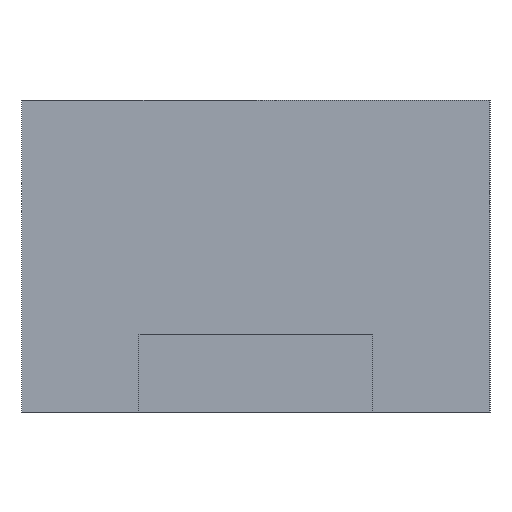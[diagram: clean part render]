
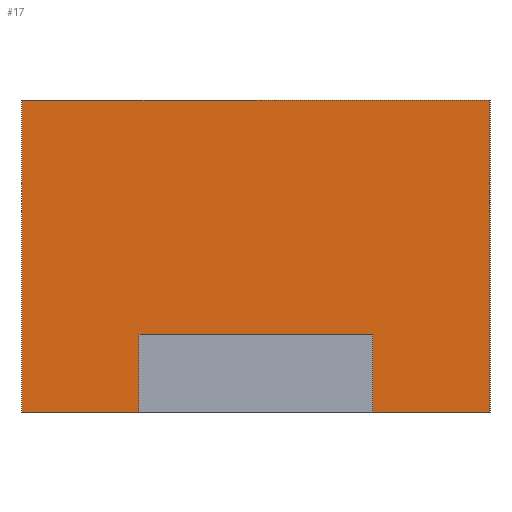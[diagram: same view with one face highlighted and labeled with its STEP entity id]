
A CAD part, left-side view. The second image highlights one B-rep face of the part: STEP entity #17.
In plain terms, the highlighted planar face has unit normal (-1, 0, 0).
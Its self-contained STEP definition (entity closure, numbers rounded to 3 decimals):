
#17 = ADVANCED_FACE('',(#18),#32,.F.);
#18 = FACE_BOUND('',#19,.F.);
#19 = EDGE_LOOP('',(#20,#55,#83,#111,#139,#167,#195,#218));
#20 = ORIENTED_EDGE('',*,*,#21,.F.);
#21 = EDGE_CURVE('',#22,#24,#26,.T.);
#22 = VERTEX_POINT('',#23);
#23 = CARTESIAN_POINT('',(-1.25,-0.75,1.));
#24 = VERTEX_POINT('',#25);
#25 = CARTESIAN_POINT('',(-1.25,0.75,1.));
#26 = SURFACE_CURVE('',#27,(#31,#43),.PCURVE_S1.);
#27 = LINE('',#28,#29);
#28 = CARTESIAN_POINT('',(-1.25,-0.75,1.));
#29 = VECTOR('',#30,1.);
#30 = DIRECTION('',(0.,1.,0.));
#31 = PCURVE('',#32,#37);
#32 = PLANE('',#33);
#33 = AXIS2_PLACEMENT_3D('',#34,#35,#36);
#34 = CARTESIAN_POINT('',(-1.25,-0.75,0.));
#35 = DIRECTION('',(1.,0.,0.));
#36 = DIRECTION('',(0.,0.,1.));
#37 = DEFINITIONAL_REPRESENTATION('',(#38),#42);
#38 = LINE('',#39,#40);
#39 = CARTESIAN_POINT('',(1.,0.));
#40 = VECTOR('',#41,1.);
#41 = DIRECTION('',(0.,-1.));
#42 = ( GEOMETRIC_REPRESENTATION_CONTEXT(2) 
PARAMETRIC_REPRESENTATION_CONTEXT() REPRESENTATION_CONTEXT('2D SPACE',''
  ) );
#43 = PCURVE('',#44,#49);
#44 = PLANE('',#45);
#45 = AXIS2_PLACEMENT_3D('',#46,#47,#48);
#46 = CARTESIAN_POINT('',(-1.25,-0.75,1.));
#47 = DIRECTION('',(0.,0.,1.));
#48 = DIRECTION('',(1.,0.,0.));
#49 = DEFINITIONAL_REPRESENTATION('',(#50),#54);
#50 = LINE('',#51,#52);
#51 = CARTESIAN_POINT('',(0.,0.));
#52 = VECTOR('',#53,1.);
#53 = DIRECTION('',(0.,1.));
#54 = ( GEOMETRIC_REPRESENTATION_CONTEXT(2) 
PARAMETRIC_REPRESENTATION_CONTEXT() REPRESENTATION_CONTEXT('2D SPACE',''
  ) );
#55 = ORIENTED_EDGE('',*,*,#56,.F.);
#56 = EDGE_CURVE('',#57,#22,#59,.T.);
#57 = VERTEX_POINT('',#58);
#58 = CARTESIAN_POINT('',(-1.25,-0.75,0.));
#59 = SURFACE_CURVE('',#60,(#64,#71),.PCURVE_S1.);
#60 = LINE('',#61,#62);
#61 = CARTESIAN_POINT('',(-1.25,-0.75,0.));
#62 = VECTOR('',#63,1.);
#63 = DIRECTION('',(0.,0.,1.));
#64 = PCURVE('',#32,#65);
#65 = DEFINITIONAL_REPRESENTATION('',(#66),#70);
#66 = LINE('',#67,#68);
#67 = CARTESIAN_POINT('',(0.,0.));
#68 = VECTOR('',#69,1.);
#69 = DIRECTION('',(1.,0.));
#70 = ( GEOMETRIC_REPRESENTATION_CONTEXT(2) 
PARAMETRIC_REPRESENTATION_CONTEXT() REPRESENTATION_CONTEXT('2D SPACE',''
  ) );
#71 = PCURVE('',#72,#77);
#72 = PLANE('',#73);
#73 = AXIS2_PLACEMENT_3D('',#74,#75,#76);
#74 = CARTESIAN_POINT('',(-1.25,-0.75,0.));
#75 = DIRECTION('',(0.,1.,0.));
#76 = DIRECTION('',(0.,0.,1.));
#77 = DEFINITIONAL_REPRESENTATION('',(#78),#82);
#78 = LINE('',#79,#80);
#79 = CARTESIAN_POINT('',(0.,0.));
#80 = VECTOR('',#81,1.);
#81 = DIRECTION('',(1.,0.));
#82 = ( GEOMETRIC_REPRESENTATION_CONTEXT(2) 
PARAMETRIC_REPRESENTATION_CONTEXT() REPRESENTATION_CONTEXT('2D SPACE',''
  ) );
#83 = ORIENTED_EDGE('',*,*,#84,.T.);
#84 = EDGE_CURVE('',#57,#85,#87,.T.);
#85 = VERTEX_POINT('',#86);
#86 = CARTESIAN_POINT('',(-1.25,-0.375,0.));
#87 = SURFACE_CURVE('',#88,(#92,#99),.PCURVE_S1.);
#88 = LINE('',#89,#90);
#89 = CARTESIAN_POINT('',(-1.25,-0.75,0.));
#90 = VECTOR('',#91,1.);
#91 = DIRECTION('',(0.,1.,0.));
#92 = PCURVE('',#32,#93);
#93 = DEFINITIONAL_REPRESENTATION('',(#94),#98);
#94 = LINE('',#95,#96);
#95 = CARTESIAN_POINT('',(0.,0.));
#96 = VECTOR('',#97,1.);
#97 = DIRECTION('',(0.,-1.));
#98 = ( GEOMETRIC_REPRESENTATION_CONTEXT(2) 
PARAMETRIC_REPRESENTATION_CONTEXT() REPRESENTATION_CONTEXT('2D SPACE',''
  ) );
#99 = PCURVE('',#100,#105);
#100 = PLANE('',#101);
#101 = AXIS2_PLACEMENT_3D('',#102,#103,#104);
#102 = CARTESIAN_POINT('',(-1.25,-0.75,0.));
#103 = DIRECTION('',(0.,0.,1.));
#104 = DIRECTION('',(1.,0.,0.));
#105 = DEFINITIONAL_REPRESENTATION('',(#106),#110);
#106 = LINE('',#107,#108);
#107 = CARTESIAN_POINT('',(0.,0.));
#108 = VECTOR('',#109,1.);
#109 = DIRECTION('',(0.,1.));
#110 = ( GEOMETRIC_REPRESENTATION_CONTEXT(2) 
PARAMETRIC_REPRESENTATION_CONTEXT() REPRESENTATION_CONTEXT('2D SPACE',''
  ) );
#111 = ORIENTED_EDGE('',*,*,#112,.T.);
#112 = EDGE_CURVE('',#85,#113,#115,.T.);
#113 = VERTEX_POINT('',#114);
#114 = CARTESIAN_POINT('',(-1.25,-0.375,0.25));
#115 = SURFACE_CURVE('',#116,(#120,#127),.PCURVE_S1.);
#116 = LINE('',#117,#118);
#117 = CARTESIAN_POINT('',(-1.25,-0.375,0.));
#118 = VECTOR('',#119,1.);
#119 = DIRECTION('',(0.,0.,1.));
#120 = PCURVE('',#32,#121);
#121 = DEFINITIONAL_REPRESENTATION('',(#122),#126);
#122 = LINE('',#123,#124);
#123 = CARTESIAN_POINT('',(0.,-0.375));
#124 = VECTOR('',#125,1.);
#125 = DIRECTION('',(1.,0.));
#126 = ( GEOMETRIC_REPRESENTATION_CONTEXT(2) 
PARAMETRIC_REPRESENTATION_CONTEXT() REPRESENTATION_CONTEXT('2D SPACE',''
  ) );
#127 = PCURVE('',#128,#133);
#128 = PLANE('',#129);
#129 = AXIS2_PLACEMENT_3D('',#130,#131,#132);
#130 = CARTESIAN_POINT('',(-1.75,-0.375,0.));
#131 = DIRECTION('',(0.,1.,0.));
#132 = DIRECTION('',(0.,0.,1.));
#133 = DEFINITIONAL_REPRESENTATION('',(#134),#138);
#134 = LINE('',#135,#136);
#135 = CARTESIAN_POINT('',(0.,0.5));
#136 = VECTOR('',#137,1.);
#137 = DIRECTION('',(1.,0.));
#138 = ( GEOMETRIC_REPRESENTATION_CONTEXT(2) 
PARAMETRIC_REPRESENTATION_CONTEXT() REPRESENTATION_CONTEXT('2D SPACE',''
  ) );
#139 = ORIENTED_EDGE('',*,*,#140,.T.);
#140 = EDGE_CURVE('',#113,#141,#143,.T.);
#141 = VERTEX_POINT('',#142);
#142 = CARTESIAN_POINT('',(-1.25,0.375,0.25));
#143 = SURFACE_CURVE('',#144,(#148,#155),.PCURVE_S1.);
#144 = LINE('',#145,#146);
#145 = CARTESIAN_POINT('',(-1.25,-0.375,0.25));
#146 = VECTOR('',#147,1.);
#147 = DIRECTION('',(0.,1.,0.));
#148 = PCURVE('',#32,#149);
#149 = DEFINITIONAL_REPRESENTATION('',(#150),#154);
#150 = LINE('',#151,#152);
#151 = CARTESIAN_POINT('',(0.25,-0.375));
#152 = VECTOR('',#153,1.);
#153 = DIRECTION('',(0.,-1.));
#154 = ( GEOMETRIC_REPRESENTATION_CONTEXT(2) 
PARAMETRIC_REPRESENTATION_CONTEXT() REPRESENTATION_CONTEXT('2D SPACE',''
  ) );
#155 = PCURVE('',#156,#161);
#156 = PLANE('',#157);
#157 = AXIS2_PLACEMENT_3D('',#158,#159,#160);
#158 = CARTESIAN_POINT('',(-1.75,-0.375,0.25));
#159 = DIRECTION('',(0.,0.,1.));
#160 = DIRECTION('',(1.,0.,0.));
#161 = DEFINITIONAL_REPRESENTATION('',(#162),#166);
#162 = LINE('',#163,#164);
#163 = CARTESIAN_POINT('',(0.5,0.));
#164 = VECTOR('',#165,1.);
#165 = DIRECTION('',(0.,1.));
#166 = ( GEOMETRIC_REPRESENTATION_CONTEXT(2) 
PARAMETRIC_REPRESENTATION_CONTEXT() REPRESENTATION_CONTEXT('2D SPACE',''
  ) );
#167 = ORIENTED_EDGE('',*,*,#168,.F.);
#168 = EDGE_CURVE('',#169,#141,#171,.T.);
#169 = VERTEX_POINT('',#170);
#170 = CARTESIAN_POINT('',(-1.25,0.375,0.));
#171 = SURFACE_CURVE('',#172,(#176,#183),.PCURVE_S1.);
#172 = LINE('',#173,#174);
#173 = CARTESIAN_POINT('',(-1.25,0.375,0.));
#174 = VECTOR('',#175,1.);
#175 = DIRECTION('',(0.,0.,1.));
#176 = PCURVE('',#32,#177);
#177 = DEFINITIONAL_REPRESENTATION('',(#178),#182);
#178 = LINE('',#179,#180);
#179 = CARTESIAN_POINT('',(0.,-1.125));
#180 = VECTOR('',#181,1.);
#181 = DIRECTION('',(1.,0.));
#182 = ( GEOMETRIC_REPRESENTATION_CONTEXT(2) 
PARAMETRIC_REPRESENTATION_CONTEXT() REPRESENTATION_CONTEXT('2D SPACE',''
  ) );
#183 = PCURVE('',#184,#189);
#184 = PLANE('',#185);
#185 = AXIS2_PLACEMENT_3D('',#186,#187,#188);
#186 = CARTESIAN_POINT('',(-1.75,0.375,0.));
#187 = DIRECTION('',(0.,1.,0.));
#188 = DIRECTION('',(0.,0.,1.));
#189 = DEFINITIONAL_REPRESENTATION('',(#190),#194);
#190 = LINE('',#191,#192);
#191 = CARTESIAN_POINT('',(0.,0.5));
#192 = VECTOR('',#193,1.);
#193 = DIRECTION('',(1.,0.));
#194 = ( GEOMETRIC_REPRESENTATION_CONTEXT(2) 
PARAMETRIC_REPRESENTATION_CONTEXT() REPRESENTATION_CONTEXT('2D SPACE',''
  ) );
#195 = ORIENTED_EDGE('',*,*,#196,.T.);
#196 = EDGE_CURVE('',#169,#197,#199,.T.);
#197 = VERTEX_POINT('',#198);
#198 = CARTESIAN_POINT('',(-1.25,0.75,0.));
#199 = SURFACE_CURVE('',#200,(#204,#211),.PCURVE_S1.);
#200 = LINE('',#201,#202);
#201 = CARTESIAN_POINT('',(-1.25,-0.75,0.));
#202 = VECTOR('',#203,1.);
#203 = DIRECTION('',(0.,1.,0.));
#204 = PCURVE('',#32,#205);
#205 = DEFINITIONAL_REPRESENTATION('',(#206),#210);
#206 = LINE('',#207,#208);
#207 = CARTESIAN_POINT('',(0.,0.));
#208 = VECTOR('',#209,1.);
#209 = DIRECTION('',(0.,-1.));
#210 = ( GEOMETRIC_REPRESENTATION_CONTEXT(2) 
PARAMETRIC_REPRESENTATION_CONTEXT() REPRESENTATION_CONTEXT('2D SPACE',''
  ) );
#211 = PCURVE('',#100,#212);
#212 = DEFINITIONAL_REPRESENTATION('',(#213),#217);
#213 = LINE('',#214,#215);
#214 = CARTESIAN_POINT('',(0.,0.));
#215 = VECTOR('',#216,1.);
#216 = DIRECTION('',(0.,1.));
#217 = ( GEOMETRIC_REPRESENTATION_CONTEXT(2) 
PARAMETRIC_REPRESENTATION_CONTEXT() REPRESENTATION_CONTEXT('2D SPACE',''
  ) );
#218 = ORIENTED_EDGE('',*,*,#219,.T.);
#219 = EDGE_CURVE('',#197,#24,#220,.T.);
#220 = SURFACE_CURVE('',#221,(#225,#232),.PCURVE_S1.);
#221 = LINE('',#222,#223);
#222 = CARTESIAN_POINT('',(-1.25,0.75,0.));
#223 = VECTOR('',#224,1.);
#224 = DIRECTION('',(0.,0.,1.));
#225 = PCURVE('',#32,#226);
#226 = DEFINITIONAL_REPRESENTATION('',(#227),#231);
#227 = LINE('',#228,#229);
#228 = CARTESIAN_POINT('',(0.,-1.5));
#229 = VECTOR('',#230,1.);
#230 = DIRECTION('',(1.,0.));
#231 = ( GEOMETRIC_REPRESENTATION_CONTEXT(2) 
PARAMETRIC_REPRESENTATION_CONTEXT() REPRESENTATION_CONTEXT('2D SPACE',''
  ) );
#232 = PCURVE('',#233,#238);
#233 = PLANE('',#234);
#234 = AXIS2_PLACEMENT_3D('',#235,#236,#237);
#235 = CARTESIAN_POINT('',(-1.25,0.75,0.));
#236 = DIRECTION('',(0.,1.,0.));
#237 = DIRECTION('',(0.,0.,1.));
#238 = DEFINITIONAL_REPRESENTATION('',(#239),#243);
#239 = LINE('',#240,#241);
#240 = CARTESIAN_POINT('',(0.,0.));
#241 = VECTOR('',#242,1.);
#242 = DIRECTION('',(1.,0.));
#243 = ( GEOMETRIC_REPRESENTATION_CONTEXT(2) 
PARAMETRIC_REPRESENTATION_CONTEXT() REPRESENTATION_CONTEXT('2D SPACE',''
  ) );
